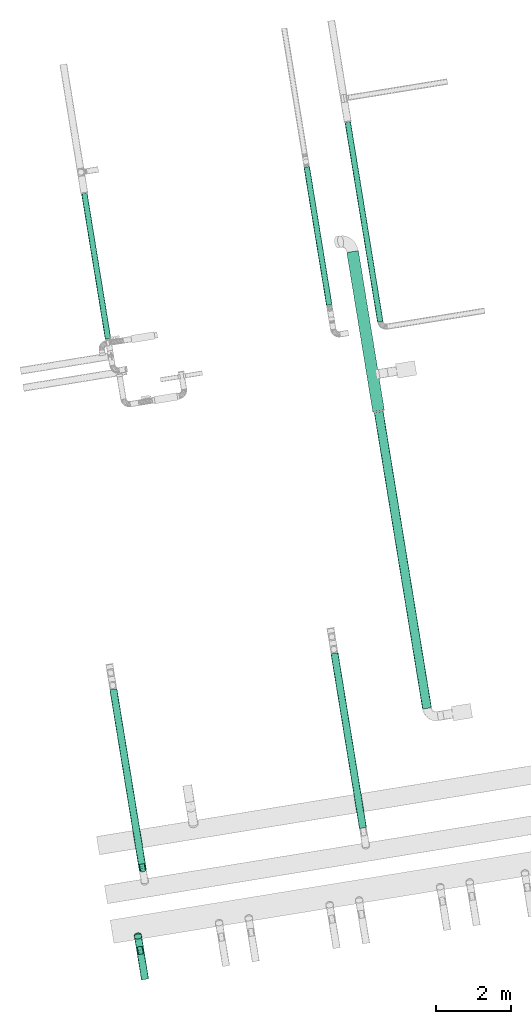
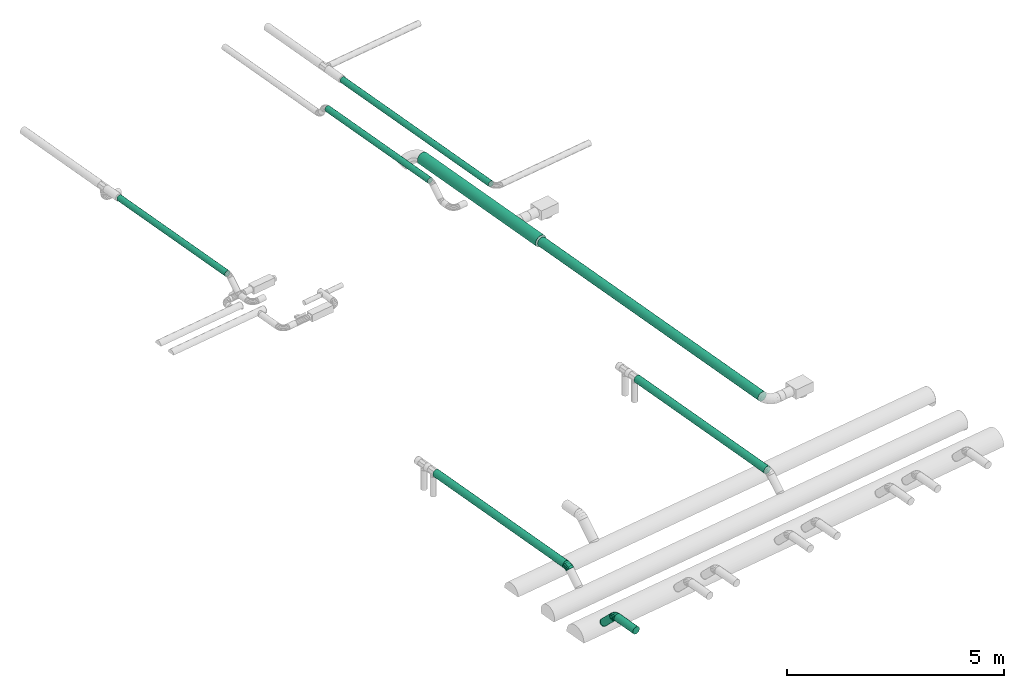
# One storey, part 1 of 19: 9 flow segments, 3 flow fittings.
"""IFC2X3 building model written with IfcOpenShell, lengths in millimetres."""

from ifc_helpers import new_model, entity, si_unit, converted_unit, derived_unit, direction, frame, frame_2d, origin, origin_with_axes, origin_2d_with_axis, place, context, subcontext, project, spatial, circle, extrude, faceted_brep, source, transform, mapped, material, type_object, element, save


model = new_model("IFC2X3")

# Units and contexts
model_context = context("Model", 3, precision=0.01, world=origin(), true_north=direction((6.12323399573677e-17, 1.0)))
plan_context = context("Plan", 3, precision=1e-05, world=origin_with_axes())
body_context = subcontext(model_context, "Body", "Model", "MODEL_VIEW")
ifc_project = project(units=[converted_unit("PLANEANGLEUNIT", "DEGREE", entity("IfcPositiveLengthMeasure", 0.0174532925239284), si_unit("PLANEANGLEUNIT", "RADIAN"), dimensions=[0, 0, 0, 0, 0, 0, 0]), si_unit("AREAUNIT", "SQUARE_METRE"), si_unit("LENGTHUNIT", "METRE", prefix="MILLI"), si_unit("MASSUNIT", "GRAM", prefix="KILO"), si_unit("POWERUNIT", "WATT"), si_unit("PRESSUREUNIT", "PASCAL", prefix="KILO"), si_unit("FORCEUNIT", "NEWTON", prefix="KILO"), si_unit("ELECTRICVOLTAGEUNIT", "VOLT"), si_unit("ELECTRICCURRENTUNIT", "AMPERE"), si_unit("THERMODYNAMICTEMPERATUREUNIT", "DEGREE_CELSIUS"), si_unit("TIMEUNIT", "SECOND"), si_unit("VOLUMEUNIT", "CUBIC_METRE"), derived_unit("LINEARVELOCITYUNIT", [(si_unit("LENGTHUNIT", "METRE"), 1), (si_unit("TIMEUNIT", "SECOND"), -1)]), derived_unit("VOLUMETRICFLOWRATEUNIT", [(si_unit("VOLUMEUNIT", "CUBIC_METRE"), 1), (si_unit("TIMEUNIT", "SECOND"), -1)]), derived_unit("THERMALTRANSMITTANCEUNIT", [(si_unit("POWERUNIT", "WATT"), 1), (si_unit("THERMODYNAMICTEMPERATUREUNIT", "KELVIN"), -1), (si_unit("AREAUNIT", "SQUARE_METRE"), -1)]), derived_unit("SOUNDPRESSUREUNIT", [(si_unit("PRESSUREUNIT", "PASCAL"), 1)])], contexts=[model_context, plan_context])

# Site, building, storey
site_placement = place(None, frame((5.09380697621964e-08, 5.80416781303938e-08, 0.0), z_axis=(0.0, 0.0, 1.0), x_axis=(-0.160806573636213, 0.986985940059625, 0.0)))
site = spatial("IfcSite", under=ifc_project, at=site_placement, Name="Default", CompositionType="ELEMENT")
building_placement = place(site_placement, frame((0.0, 0.0, 0.0), z_axis=(0.0, 0.0, 1.0), x_axis=(1.0, -2.77555756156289e-17, 0.0)))
building = spatial("IfcBuilding", under=site, at=building_placement, Name="Bygning (endres i Project Information)", CompositionType="ELEMENT")
storey_placement = place(building_placement, frame((0.0, 0.0, 51360.0000000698), z_axis=(0.0, 0.0, 1.0), x_axis=(1.0, -2.77555756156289e-17, 0.0)))
storey = spatial("IfcBuildingStorey", under=building, at=storey_placement, Name="H01-Nivå D+0,36", CompositionType="ELEMENT", Elevation=51360.0000000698)

# Flow fittings
ifc_material_1 = material(Name="3601.001 Avtrekk")
duct_fitting_type_1 = type_object("IfcDuctFittingType", Name="magicirc_elbow_full_radius_NOR:magicirc_elbow_full_radius_NOR", PredefinedType="NOTDEFINED", material=ifc_material_1)
shared_shape_1 = source(origin(), body_context, "Body", "Brep", [
    faceted_brep([(-24.3156158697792, -94.2355841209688, 0.0), (-25.4921544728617, -88.3207251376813, 34.2020143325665), (-82.8427124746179, -93.969262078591, 34.2020143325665), (-82.8427124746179, -100.0, 0.0), (-28.8798623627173, -71.2895674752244, 64.2787609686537), (-82.8427124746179, -76.604444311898, 64.2787609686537), (-34.0701319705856, -45.1963201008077, 86.6025403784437), (-82.8427124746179, -50.0, 86.6025403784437), (-40.4369401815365, -13.1882137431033, 98.4807753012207), (-82.842712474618, -17.3648177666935, 98.4807753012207), (-47.2123559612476, 20.8741015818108, 98.4807753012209), (-82.842712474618, 17.3648177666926, 98.4807753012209), (-53.5791641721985, 52.8822079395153, 86.6025403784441), (-82.8427124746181, 50.0, 86.6025403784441), (-58.7694337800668, 78.9754553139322, 64.2787609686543), (-82.8427124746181, 76.6044443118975, 64.2787609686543), (-62.1571416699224, 96.0066129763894, 34.2020143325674), (-82.8427124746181, 93.9692620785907, 34.2020143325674), (-63.3336802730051, 101.921471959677, 0.0), (-82.8427124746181, 100.0, 0.0), (-62.1571416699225, 96.0066129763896, -34.2020143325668), (-82.8427124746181, 93.9692620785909, -34.2020143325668), (-58.7694337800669, 78.9754553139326, -64.2787609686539), (-82.8427124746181, 76.6044443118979, -64.2787609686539), (-53.5791641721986, 52.8822079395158, -86.6025403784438), (-82.8427124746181, 50.0, -86.6025403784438), (-47.2123559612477, 20.8741015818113, -98.4807753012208), (-82.842712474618, 17.3648177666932, -98.4807753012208), (-40.4369401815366, -13.1882137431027, -98.4807753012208), (-82.842712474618, -17.3648177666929, -98.4807753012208), (-34.0701319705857, -45.1963201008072, -86.6025403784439), (-82.8427124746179, -50.0, -86.6025403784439), (-28.8798623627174, -71.289567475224, -64.2787609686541), (-82.8427124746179, -76.6044443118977, -64.2787609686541), (-25.4921544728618, -88.3207251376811, -34.2020143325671), (-82.8427124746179, -93.9692620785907, -34.2020143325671), (31.9623172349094, -77.1638597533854, 0.0), (29.6544537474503, -71.5921844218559, 34.2020143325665), (23.0092256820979, -55.54918470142, 64.2787609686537), (12.828145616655, -30.9698831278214, 86.6025403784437), (0.3392020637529, -0.818906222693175, 98.4807753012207), (-12.9512540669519, 31.267093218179, 98.4807753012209), (-25.440197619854, 61.4180701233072, 86.6025403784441), (-35.621277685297, 85.997371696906, 64.2787609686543), (-42.2665057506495, 102.040371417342, 34.2020143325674), (-44.5743692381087, 107.612046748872, 0.0), (-42.2665057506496, 102.040371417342, -34.2020143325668), (-35.6212776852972, 85.9973716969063, -64.2787609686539), (-25.4401976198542, 61.4180701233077, -86.6025403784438), (-12.9512540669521, 31.2670932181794, -98.4807753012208), (0.339202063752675, -0.818906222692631, -98.4807753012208), (12.8281456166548, -30.9698831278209, -86.6025403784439), (23.0092256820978, -55.5491847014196, -64.2787609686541), (29.6544537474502, -71.5921844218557, -34.2020143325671), (83.8283574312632, -49.4408836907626, 0.0), (80.4778589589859, -44.4265083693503, 34.2020143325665), (70.8304831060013, -29.9881900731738, 64.2787609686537), (56.0498457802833, -7.86740307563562, 86.6025403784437), (37.9187099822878, 19.2677592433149, 98.4807753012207), (18.6239582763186, 48.1443958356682, 98.4807753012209), (0.492822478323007, 75.2795581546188, 86.6025403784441), (-14.2878148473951, 97.4003451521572, 64.2787609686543), (-23.9351907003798, 111.838663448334, 34.2020143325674), (-27.2856891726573, 116.853038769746, 0.0), (-23.9351907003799, 111.838663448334, -34.2020143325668), (-14.2878148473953, 97.4003451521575, -64.2787609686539), (0.492822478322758, 75.2795581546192, -86.6025403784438), (18.6239582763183, 48.1443958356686, -98.4807753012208), (37.9187099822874, 19.2677592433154, -98.4807753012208), (56.049845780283, -7.86740307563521, -86.6025403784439), (70.8304831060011, -29.9881900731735, -64.2787609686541), (80.4778589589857, -44.4265083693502, -34.2020143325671), (129.289321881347, -12.1320343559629, 0.0), (125.02494620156, -7.86765867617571, 34.2020143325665), (112.746165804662, 4.41112172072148, 64.2787609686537), (93.9339828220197, 23.2233047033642, 86.6025403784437), (70.8574241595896, 46.2998633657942, 98.4807753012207), (46.299863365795, 70.8574241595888, 98.4807753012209), (23.2233047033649, 93.9339828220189, 86.6025403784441), (4.41112172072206, 112.746165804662, 64.2787609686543), (-7.86765867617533, 125.024946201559, 34.2020143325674), (-12.1320343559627, 129.289321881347, 0.0), (-7.86765867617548, 125.024946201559, -34.2020143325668), (4.41112172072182, 112.746165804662, -64.2787609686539), (23.2233047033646, 93.9339828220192, -86.6025403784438), (46.2998633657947, 70.8574241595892, -98.4807753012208), (70.8574241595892, 46.2998633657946, -98.4807753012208), (93.9339828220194, 23.2233047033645, -86.6025403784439), (112.746165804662, 4.41112172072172, -64.2787609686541), (125.02494620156, -7.86765867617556, -34.2020143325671)], [[[0, 1, 2, 3]], [[1, 4, 5, 2]], [[4, 6, 7, 5]], [[6, 8, 9, 7]], [[8, 10, 11, 9]], [[10, 12, 13, 11]], [[12, 14, 15, 13]], [[14, 16, 17, 15]], [[16, 18, 19, 17]], [[18, 20, 21, 19]], [[20, 22, 23, 21]], [[22, 24, 25, 23]], [[24, 26, 27, 25]], [[26, 28, 29, 27]], [[28, 30, 31, 29]], [[30, 32, 33, 31]], [[32, 34, 35, 33]], [[34, 0, 3, 35]], [[36, 37, 1, 0]], [[37, 38, 4, 1]], [[38, 39, 6, 4]], [[39, 40, 8, 6]], [[40, 41, 10, 8]], [[41, 42, 12, 10]], [[42, 43, 14, 12]], [[43, 44, 16, 14]], [[44, 45, 18, 16]], [[45, 46, 20, 18]], [[46, 47, 22, 20]], [[47, 48, 24, 22]], [[48, 49, 26, 24]], [[49, 50, 28, 26]], [[50, 51, 30, 28]], [[51, 52, 32, 30]], [[52, 53, 34, 32]], [[53, 36, 0, 34]], [[54, 55, 37, 36]], [[55, 56, 38, 37]], [[56, 57, 39, 38]], [[57, 58, 40, 39]], [[58, 59, 41, 40]], [[59, 60, 42, 41]], [[60, 61, 43, 42]], [[61, 62, 44, 43]], [[62, 63, 45, 44]], [[63, 64, 46, 45]], [[64, 65, 47, 46]], [[65, 66, 48, 47]], [[66, 67, 49, 48]], [[67, 68, 50, 49]], [[68, 69, 51, 50]], [[69, 70, 52, 51]], [[70, 71, 53, 52]], [[71, 54, 36, 53]], [[72, 73, 55, 54]], [[73, 74, 56, 55]], [[74, 75, 57, 56]], [[75, 76, 58, 57]], [[76, 77, 59, 58]], [[77, 78, 60, 59]], [[78, 79, 61, 60]], [[79, 80, 62, 61]], [[80, 81, 63, 62]], [[81, 82, 64, 63]], [[82, 83, 65, 64]], [[83, 84, 66, 65]], [[84, 85, 67, 66]], [[85, 86, 68, 67]], [[86, 87, 69, 68]], [[87, 88, 70, 69]], [[88, 89, 71, 70]], [[89, 72, 54, 71]], [[3, 2, 5, 7, 9, 11, 13, 15, 17, 19, 21, 23, 25, 27, 29, 31, 33, 35]], [[89, 88, 87, 86, 85, 84, 83, 82, 81, 80, 79, 78, 77, 76, 75, 74, 73, 72]]]),
])
for number, where, z_axis, x_axis, name in (
    (1, (995076.02146116, -385132.73177938, 3820.00000015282), (-2.77555756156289e-17, -1.0, 0.0), (-1.0, 2.77555756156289e-17, 0.0), "magicirc_elbow_full_radius_NOR:magicirc_elbow_full_radius_NOR"),
    (2, (992862.921338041, -384719.987431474, 3800.0), (2.77555756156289e-17, 1.0, 0.0), (1.0, -2.77555756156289e-17, 0.0), "magicirc_elbow_full_radius_NOR:magicirc_elbow_full_radius_NOR"),
):
    element("IfcFlowFitting", number, at=place(storey_placement, frame(where, z_axis=z_axis, x_axis=x_axis)), inside=storey, type_object=duct_fitting_type_1, material=ifc_material_1, Name=name, ObjectType="magicirc_elbow_full_radius_NOR:magicirc_elbow_full_radius_NOR", context=body_context, shape_type="MappedRepresentation", body=[
        mapped(shared_shape_1, transform((0.0, 0.0, 0.0), scale=1.0)),
    ])
ifc_material_2 = material(Name="3601.001 Tilluft")
duct_fitting_type_2 = type_object("IfcDuctFittingType", Name="magicirc_tapoutlet_001:magicirc_tapoutlet_001", PredefinedType="NOTDEFINED", material=ifc_material_2)
shared_shape_2 = source(origin(), body_context, "Body", "Brep", [
    faceted_brep([(-22.3909057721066, -25.8819045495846, -96.5925827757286), (-22.3909057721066, -50.0000000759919, -86.6025405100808), (-22.3909057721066, -70.7106782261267, -70.7106782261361), (-22.3909057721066, -86.6025405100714, -50.0000000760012), (-22.3909057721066, -96.5925827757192, -25.8819045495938), (-22.3909057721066, -100.000000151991, 0.0), (-22.3909057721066, -96.5925827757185, 25.8819045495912), (-22.3909057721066, -86.6025405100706, 50.0000000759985), (-22.3909057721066, -70.7106782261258, 70.7106782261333), (-22.3909057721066, -50.0000000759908, 86.6025405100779), (-22.3909057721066, -25.8819045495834, 96.5925827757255), (-22.3909057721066, 0.0, 100.000000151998), (-22.3909057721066, 25.8819045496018, 96.5925827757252), (-22.3909057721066, 50.0000000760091, 86.6025405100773), (-22.3909057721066, 70.710678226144, 70.7106782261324), (-22.3909057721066, 86.6025405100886, 50.0000000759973), (-22.3909057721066, 96.5925827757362, 25.8819045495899), (-22.3909057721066, 100.00000015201, 0.0), (-22.3909057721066, 96.5925827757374, -25.8819045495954), (-22.3909057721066, 86.6025405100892, -50.0000000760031), (-22.3909057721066, 70.7106782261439, -70.7106782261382), (-22.3909057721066, 50.0000000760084, -86.6025405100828), (-22.3909057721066, 25.8819045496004, -96.5925827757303), (-22.3909057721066, 0.0, -100.000000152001), (0.0, -25.8819045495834, 96.5925827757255), (20.0, -25.8819045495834, 96.5925827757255), (20.0, 0.0, 100.000000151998), (0.0, 0.0, 100.000000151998), (0.0, -50.0000000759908, 86.6025405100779), (20.0, -50.0000000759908, 86.6025405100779), (0.0, -70.7106782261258, 70.7106782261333), (20.0, -70.7106782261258, 70.7106782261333), (0.0, -96.5925827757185, 25.8819045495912), (20.0, -96.5925827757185, 25.8819045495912), (20.0, -86.6025405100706, 50.0000000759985), (0.0, -86.6025405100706, 50.0000000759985), (0.0, -100.000000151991, 0.0), (20.0, -100.000000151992, 0.0), (0.0, -96.5925827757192, -25.8819045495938), (20.0, -96.5925827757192, -25.8819045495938), (0.0, -86.6025405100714, -50.0000000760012), (20.0, -86.6025405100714, -50.0000000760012), (0.0, -70.7106782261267, -70.7106782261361), (20.0, -70.7106782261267, -70.7106782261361), (0.0, 0.0, -100.000000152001), (20.0, 0.0, -100.000000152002), (20.0, -25.8819045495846, -96.5925827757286), (0.0, -25.8819045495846, -96.5925827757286), (20.0, -50.0000000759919, -86.6025405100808), (0.0, -50.0000000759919, -86.6025405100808), (0.0, 25.8819045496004, -96.5925827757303), (20.0, 25.8819045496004, -96.5925827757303), (0.0, 50.0000000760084, -86.6025405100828), (20.0, 50.0000000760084, -86.6025405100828), (0.0, 70.7106782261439, -70.7106782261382), (20.0, 70.7106782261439, -70.7106782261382), (0.0, 96.5925827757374, -25.8819045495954), (20.0, 96.5925827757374, -25.8819045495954), (20.0, 86.6025405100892, -50.0000000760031), (0.0, 86.6025405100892, -50.0000000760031), (0.0, 100.00000015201, 0.0), (20.0, 100.000000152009, 0.0), (0.0, 96.5925827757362, 25.8819045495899), (20.0, 96.5925827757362, 25.8819045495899), (0.0, 86.6025405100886, 50.0000000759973), (20.0, 86.6025405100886, 50.0000000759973), (0.0, 70.710678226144, 70.7106782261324), (20.0, 70.710678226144, 70.7106782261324), (0.0, 25.8819045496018, 96.5925827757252), (20.0, 25.8819045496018, 96.5925827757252), (20.0, 50.0000000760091, 86.6025405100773), (0.0, 50.0000000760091, 86.6025405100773)], [[[0, 1, 2, 3, 4, 5, 6, 7, 8, 9, 10, 11, 12, 13, 14, 15, 16, 17, 18, 19, 20, 21, 22, 23]], [[24, 25, 26, 27, 11, 10]], [[28, 29, 25, 24, 10, 9]], [[8, 30, 31, 29, 28, 9]], [[32, 33, 34, 35, 7, 6]], [[36, 37, 33, 32, 6, 5]], [[7, 35, 34, 31, 30, 8]], [[38, 39, 37, 36, 5, 4]], [[40, 41, 39, 38, 4, 3]], [[2, 42, 43, 41, 40, 3]], [[0, 23, 44, 45, 46, 47]], [[1, 0, 47, 46, 48, 49]], [[1, 49, 48, 43, 42, 2]], [[50, 51, 45, 44, 23, 22]], [[52, 53, 51, 50, 22, 21]], [[20, 54, 55, 53, 52, 21]], [[56, 57, 58, 59, 19, 18]], [[60, 61, 57, 56, 18, 17]], [[19, 59, 58, 55, 54, 20]], [[62, 63, 61, 60, 17, 16]], [[64, 65, 63, 62, 16, 15]], [[14, 66, 67, 65, 64, 15]], [[68, 69, 70, 71, 13, 12]], [[27, 26, 69, 68, 12, 11]], [[13, 71, 70, 67, 66, 14]], [[45, 51, 53, 55, 58, 57, 61, 63, 65, 67, 70, 69, 26, 25, 29, 31, 34, 33, 37, 39, 41, 43, 48, 46]]]),
    faceted_brep([(20.0, 0.0, -100.000000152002), (20.0, 25.8819045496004, -96.5925827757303), (20.0, 50.0000000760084, -86.6025405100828), (20.0, 70.710678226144, -70.7106782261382), (20.0, 86.6025405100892, -50.0000000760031), (20.0, 96.5925827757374, -25.8819045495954), (20.0, 100.000000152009, 0.0), (20.0, 96.5925827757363, 25.8819045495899), (20.0, 86.6025405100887, 50.0000000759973), (20.0, 70.710678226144, 70.7106782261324), (20.0, 50.0000000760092, 86.6025405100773), (20.0, 25.8819045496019, 96.5925827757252), (20.0, 0.0, 100.000000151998), (20.0, -25.8819045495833, 96.5925827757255), (20.0, -50.0000000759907, 86.6025405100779), (20.0, -70.7106782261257, 70.7106782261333), (20.0, -86.6025405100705, 50.0000000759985), (20.0, -96.5925827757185, 25.8819045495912), (20.0, -100.000000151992, 0.0), (20.0, -96.5925827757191, -25.8819045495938), (20.0, -86.6025405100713, -50.0000000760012), (20.0, -70.7106782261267, -70.7106782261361), (20.0, -50.0000000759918, -86.6025405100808), (20.0, -25.8819045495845, -96.5925827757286), (0.0, 0.0, 100.000000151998), (-22.3909057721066, 0.0, 100.000000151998), (-22.3909057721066, -25.8819045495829, 96.5925827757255), (0.0, -25.8819045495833, 96.5925827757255), (-22.3909057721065, -50.0000000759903, 86.6025405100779), (0.0, -50.0000000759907, 86.6025405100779), (0.0, -70.7106782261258, 70.7106782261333), (-22.3909057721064, -70.7106782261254, 70.7106782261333), (0.0, -86.6025405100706, 50.0000000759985), (-22.3909057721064, -86.6025405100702, 50.0000000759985), (-22.3909057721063, -96.5925827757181, 25.8819045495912), (0.0, -96.5925827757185, 25.8819045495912), (-22.3909057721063, -100.000000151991, 0.0), (0.0, -100.000000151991, 0.0), (-22.3909057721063, -96.5925827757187, -25.8819045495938), (0.0, -96.5925827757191, -25.8819045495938), (-22.3909057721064, -86.602540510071, -50.0000000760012), (0.0, -86.6025405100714, -50.0000000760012), (0.0, -70.7106782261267, -70.7106782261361), (-22.3909057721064, -70.7106782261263, -70.7106782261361), (0.0, -25.8819045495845, -96.5925827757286), (-22.3909057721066, -25.8819045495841, -96.5925827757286), (-22.3909057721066, 0.0, -100.000000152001), (0.0, 0.0, -100.000000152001), (0.0, -50.0000000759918, -86.6025405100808), (-22.3909057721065, -50.0000000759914, -86.6025405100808), (-22.3909057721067, 25.8819045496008, -96.5925827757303), (0.0, 25.8819045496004, -96.5925827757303), (-22.3909057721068, 50.0000000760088, -86.6025405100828), (0.0, 50.0000000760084, -86.6025405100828), (0.0, 70.7106782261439, -70.7106782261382), (-22.3909057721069, 70.7106782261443, -70.7106782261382), (0.0, 86.6025405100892, -50.0000000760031), (-22.3909057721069, 86.6025405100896, -50.0000000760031), (-22.390905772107, 96.5925827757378, -25.8819045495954), (0.0, 96.5925827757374, -25.8819045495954), (-22.390905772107, 100.00000015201, 0.0), (0.0, 100.00000015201, 0.0), (-22.390905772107, 96.5925827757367, 25.8819045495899), (0.0, 96.5925827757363, 25.8819045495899), (-22.3909057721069, 86.602540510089, 50.0000000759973), (0.0, 86.6025405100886, 50.0000000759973), (0.0, 70.710678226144, 70.7106782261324), (-22.3909057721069, 70.7106782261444, 70.7106782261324), (0.0, 50.0000000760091, 86.6025405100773), (-22.3909057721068, 50.0000000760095, 86.6025405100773), (-22.3909057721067, 25.8819045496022, 96.5925827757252), (0.0, 25.8819045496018, 96.5925827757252)], [[[0, 1, 2, 3, 4, 5, 6, 7, 8, 9, 10, 11, 12, 13, 14, 15, 16, 17, 18, 19, 20, 21, 22, 23]], [[13, 12, 24, 25, 26, 27]], [[14, 13, 27, 26, 28, 29]], [[30, 15, 14, 29, 28, 31]], [[17, 16, 32, 33, 34, 35]], [[18, 17, 35, 34, 36, 37]], [[32, 16, 15, 30, 31, 33]], [[19, 18, 37, 36, 38, 39]], [[20, 19, 39, 38, 40, 41]], [[42, 21, 20, 41, 40, 43]], [[44, 45, 46, 47, 0, 23]], [[48, 49, 45, 44, 23, 22]], [[48, 22, 21, 42, 43, 49]], [[1, 0, 47, 46, 50, 51]], [[2, 1, 51, 50, 52, 53]], [[54, 3, 2, 53, 52, 55]], [[5, 4, 56, 57, 58, 59]], [[6, 5, 59, 58, 60, 61]], [[56, 4, 3, 54, 55, 57]], [[7, 6, 61, 60, 62, 63]], [[8, 7, 63, 62, 64, 65]], [[66, 9, 8, 65, 64, 67]], [[11, 10, 68, 69, 70, 71]], [[12, 11, 71, 70, 25, 24]], [[68, 10, 9, 66, 67, 69]], [[45, 49, 43, 40, 38, 36, 34, 33, 31, 28, 26, 25, 70, 69, 67, 64, 62, 60, 58, 57, 55, 52, 50, 46]]]),
    faceted_brep([(-22.3909057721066, -25.8819045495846, -96.5925827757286), (-22.3909057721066, -50.0000000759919, -86.6025405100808), (-22.3909057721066, -70.7106782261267, -70.7106782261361), (-22.3909057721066, -86.6025405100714, -50.0000000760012), (-22.3909057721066, -96.5925827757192, -25.8819045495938), (-22.3909057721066, -100.000000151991, 0.0), (-22.3909057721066, -96.5925827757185, 25.8819045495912), (-22.3909057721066, -86.6025405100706, 50.0000000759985), (-22.3909057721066, -70.7106782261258, 70.7106782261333), (-22.3909057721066, -50.0000000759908, 86.6025405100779), (-22.3909057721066, -25.8819045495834, 96.5925827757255), (-22.3909057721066, 0.0, 100.000000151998), (-22.3909057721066, 25.8819045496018, 96.5925827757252), (-22.3909057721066, 50.0000000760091, 86.6025405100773), (-22.3909057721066, 70.710678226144, 70.7106782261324), (-22.3909057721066, 86.6025405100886, 50.0000000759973), (-22.3909057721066, 96.5925827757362, 25.8819045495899), (-22.3909057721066, 100.00000015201, 0.0), (-22.3909057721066, 96.5925827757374, -25.8819045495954), (-22.3909057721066, 86.6025405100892, -50.0000000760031), (-22.3909057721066, 70.7106782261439, -70.7106782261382), (-22.3909057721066, 50.0000000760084, -86.6025405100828), (-22.3909057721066, 25.8819045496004, -96.5925827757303), (-22.3909057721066, 0.0, -100.000000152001), (0.0, -25.8819045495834, 96.5925827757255), (20.0, -25.8819045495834, 96.5925827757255), (20.0, 0.0, 100.000000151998), (0.0, 0.0, 100.000000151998), (0.0, -50.0000000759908, 86.6025405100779), (20.0, -50.0000000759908, 86.6025405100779), (0.0, -70.7106782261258, 70.7106782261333), (20.0, -70.7106782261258, 70.7106782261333), (0.0, -96.5925827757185, 25.8819045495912), (20.0, -96.5925827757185, 25.8819045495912), (20.0, -86.6025405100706, 50.0000000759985), (0.0, -86.6025405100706, 50.0000000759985), (0.0, -100.000000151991, 0.0), (20.0, -100.000000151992, 0.0), (0.0, -96.5925827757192, -25.8819045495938), (20.0, -96.5925827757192, -25.8819045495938), (0.0, -86.6025405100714, -50.0000000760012), (20.0, -86.6025405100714, -50.0000000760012), (0.0, -70.7106782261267, -70.7106782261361), (20.0, -70.7106782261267, -70.7106782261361), (0.0, 0.0, -100.000000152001), (20.0, 0.0, -100.000000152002), (20.0, -25.8819045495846, -96.5925827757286), (0.0, -25.8819045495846, -96.5925827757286), (20.0, -50.0000000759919, -86.6025405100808), (0.0, -50.0000000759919, -86.6025405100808), (0.0, 25.8819045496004, -96.5925827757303), (20.0, 25.8819045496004, -96.5925827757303), (0.0, 50.0000000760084, -86.6025405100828), (20.0, 50.0000000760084, -86.6025405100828), (0.0, 70.7106782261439, -70.7106782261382), (20.0, 70.7106782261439, -70.7106782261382), (0.0, 96.5925827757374, -25.8819045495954), (20.0, 96.5925827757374, -25.8819045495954), (20.0, 86.6025405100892, -50.0000000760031), (0.0, 86.6025405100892, -50.0000000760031), (0.0, 100.00000015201, 0.0), (20.0, 100.000000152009, 0.0), (0.0, 96.5925827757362, 25.8819045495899), (20.0, 96.5925827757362, 25.8819045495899), (0.0, 86.6025405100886, 50.0000000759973), (20.0, 86.6025405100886, 50.0000000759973), (0.0, 70.710678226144, 70.7106782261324), (20.0, 70.710678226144, 70.7106782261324), (0.0, 25.8819045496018, 96.5925827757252), (20.0, 25.8819045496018, 96.5925827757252), (20.0, 50.0000000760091, 86.6025405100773), (0.0, 50.0000000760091, 86.6025405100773)], [[[0, 1, 2, 3, 4, 5, 6, 7, 8, 9, 10, 11, 12, 13, 14, 15, 16, 17, 18, 19, 20, 21, 22, 23]], [[24, 25, 26, 27, 11, 10]], [[28, 29, 25, 24, 10, 9]], [[8, 30, 31, 29, 28, 9]], [[32, 33, 34, 35, 7, 6]], [[36, 37, 33, 32, 6, 5]], [[7, 35, 34, 31, 30, 8]], [[38, 39, 37, 36, 5, 4]], [[40, 41, 39, 38, 4, 3]], [[2, 42, 43, 41, 40, 3]], [[0, 23, 44, 45, 46, 47]], [[1, 0, 47, 46, 48, 49]], [[1, 49, 48, 43, 42, 2]], [[50, 51, 45, 44, 23, 22]], [[52, 53, 51, 50, 22, 21]], [[20, 54, 55, 53, 52, 21]], [[56, 57, 58, 59, 19, 18]], [[60, 61, 57, 56, 18, 17]], [[19, 59, 58, 55, 54, 20]], [[62, 63, 61, 60, 17, 16]], [[64, 65, 63, 62, 16, 15]], [[14, 66, 67, 65, 64, 15]], [[68, 69, 70, 71, 13, 12]], [[27, 26, 69, 68, 12, 11]], [[13, 71, 70, 67, 66, 14]], [[45, 51, 53, 55, 58, 57, 61, 63, 65, 67, 70, 69, 26, 25, 29, 31, 34, 33, 37, 39, 41, 43, 48, 46]]]),
])
flow_fitting_placement = place(storey_placement, frame((993275.16379933, -384719.987431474, 3387.75753871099), z_axis=(0.707106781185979, -1.26830987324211e-06, 0.707106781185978), x_axis=(-0.707106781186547, 1.38777878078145e-17, 0.707106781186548)))
element("IfcFlowFitting", 3, at=flow_fitting_placement, inside=storey, type_object=duct_fitting_type_2, material=ifc_material_2, Name="magicirc_tapoutlet_001:magicirc_tapoutlet_001", ObjectType="magicirc_tapoutlet_001:magicirc_tapoutlet_001", context=body_context, shape_type="MappedRepresentation", body=[
    mapped(shared_shape_2, transform((0.0, 0.0, 0.0), scale=1.0)),
])

# Flow segments
duct_segment_type = type_object("IfcDuctSegmentType", Name="Round Duct:Sirkulær kanal", PredefinedType="NOTDEFINED", material=ifc_material_2)
flow_segment_1_placement = place(storey_placement, frame((0.0, 0.0, 0.0), z_axis=(0.0, 0.0, 1.0), x_axis=(1.0, -2.77555756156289e-17, 0.0)))
element("IfcFlowSegment", 4, at=flow_segment_1_placement, inside=storey, type_object=duct_segment_type, Name="Round Duct:Sirkulær kanal", ObjectType="Round Duct:Sirkulær kanal", context=body_context, shape_type="SweptSolid", body=[
    extrude(circle(Radius=100.000000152, at=frame_2d((0.0, -8.66293703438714e-12), x_axis=(1.0, 0.0))), frame((992095.9462867, -384719.987431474, 3800.0), z_axis=(1.0, 0.0, 0.0), x_axis=(0.0, 1.0, 0.0)), (0.0, 0.0, 1.0), 684.132338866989),
])
flow_segment_2_placement = place(storey_placement, frame((0.0, 0.0, 0.0), z_axis=(0.0, 0.0, 1.0), x_axis=(1.0, -2.77555756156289e-17, 0.0)))
element("IfcFlowSegment", 5, at=flow_segment_2_placement, inside=storey, type_object=duct_segment_type, Name="Round Duct:Sirkulær kanal", ObjectType="Round Duct:Sirkulær kanal", context=body_context, shape_type="SweptSolid", body=[
    extrude(circle(Radius=100.000000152, at=frame_2d((0.0, -8.66293703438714e-12), x_axis=(1.0, 0.0))), frame((995158.864173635, -385132.73177938, 3820.00000015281), z_axis=(1.0, 0.0, 0.0), x_axis=(0.0, -1.0, 0.0)), (0.0, 0.0, 1.0), 4741.53496001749),
])
flow_segment_3_placement = place(storey_placement, frame((0.0, 0.0, 0.0), z_axis=(0.0, 0.0, 1.0), x_axis=(1.0, -2.77555756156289e-17, 0.0)))
element("IfcFlowSegment", 6, at=flow_segment_3_placement, inside=storey, type_object=duct_segment_type, Name="Round Duct:Sirkulær kanal", ObjectType="Round Duct:Sirkulær kanal", context=body_context, shape_type="SweptSolid", body=[
    extrude(circle(Radius=100.000000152, at=frame_2d((0.0, -8.66293703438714e-12), x_axis=(1.0, 0.0))), frame((995158.864173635, -391132.73177938, 3820.00000015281), z_axis=(1.0, 0.0, 0.0), x_axis=(0.0, -1.0, 0.0)), (0.0, 0.0, 1.0), 4741.53496001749),
])
flow_segment_4_placement = place(storey_placement, frame((0.0, 0.0, 0.0), z_axis=(0.0, 0.0, 1.0), x_axis=(1.0, -2.77555756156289e-17, 0.0)))
element("IfcFlowSegment", 7, at=flow_segment_4_placement, inside=storey, type_object=duct_segment_type, Name="Round Duct:Sirkulær kanal", ObjectType="Round Duct:Sirkulær kanal", context=body_context, shape_type="SweptSolid", body=[
    extrude(circle(Radius=80.0000001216, at=origin_2d_with_axis()), frame((1009190.26421634, -386501.39713563, 3799.99999996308), z_axis=(1.0, 0.0, 0.0), x_axis=(0.0, 1.0, 0.0)), (0.0, 0.0, 1.0), 3941.0154999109),
])
flow_segment_5_placement = place(storey_placement, frame((0.0, 0.0, 0.0), z_axis=(0.0, 0.0, 1.0), x_axis=(1.0, -2.77555756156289e-17, 0.0)))
element("IfcFlowSegment", 8, at=flow_segment_5_placement, inside=storey, type_object=duct_segment_type, Name="Round Duct:Sirkulær kanal", ObjectType="Round Duct:Sirkulær kanal", context=body_context, shape_type="SweptSolid", body=[
    extrude(circle(Radius=80.0000001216, at=frame_2d((0.0, 8.66293703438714e-12), x_axis=(1.0, 0.0))), frame((1009129.15967794, -392493.89713582, 3799.99999993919), z_axis=(1.0, 0.0, 0.0), x_axis=(0.0, 1.0, 0.0)), (0.0, 0.0, 1.0), 3747.04254269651),
])
flow_segment_6_placement = place(storey_placement, frame((0.0, 0.0, 0.0), z_axis=(0.0, 0.0, 1.0), x_axis=(1.0, -2.77555756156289e-17, 0.0)))
element("IfcFlowSegment", 9, at=flow_segment_6_placement, inside=storey, type_object=duct_segment_type, Name="Round Duct:Sirkulær kanal", ObjectType="Round Duct:Sirkulær kanal", context=body_context, shape_type="SweptSolid", body=[
    extrude(circle(Radius=80.0000001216, at=frame_2d((0.0, 8.66293703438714e-12), x_axis=(1.0, 0.0))), frame((1008468.4900465, -393771.087508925, 3499.99999994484), z_axis=(1.0, 0.0, 0.0), x_axis=(0.0, 1.0, 0.0)), (0.0, 0.0, 1.0), 5413.55515846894),
])
flow_segment_7_placement = place(storey_placement, frame((0.0, 0.0, 0.0), z_axis=(0.0, 0.0, 1.0), x_axis=(1.0, -2.77555756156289e-17, 0.0)))
element("IfcFlowSegment", 10, at=flow_segment_7_placement, inside=storey, type_object=duct_segment_type, Name="Round Duct:Sirkulær kanal", ObjectType="Round Duct:Sirkulær kanal", context=body_context, shape_type="SweptSolid", body=[
    extrude(circle(Radius=100.000000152, at=origin_2d_with_axis()), frame((992921.499981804, -384719.987431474, 3741.42135623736), z_axis=(0.707106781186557, 0.0, -0.707106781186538), x_axis=(-8.96830512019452e-07, -1.0, -8.96830512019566e-07)), (0.0, 0.0, 1.0), 480.156167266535),
])
flow_segment_8_placement = place(storey_placement, frame((0.0, 0.0, 0.0), z_axis=(0.0, 0.0, 1.0), x_axis=(1.0, -2.77555756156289e-17, 0.0)))
element("IfcFlowSegment", 11, at=flow_segment_8_placement, inside=storey, type_object=duct_segment_type, Name="Round Duct:Sirkulær kanal", ObjectType="Round Duct:Sirkulær kanal", context=body_context, shape_type="SweptSolid", body=[
    extrude(circle(Radius=125.00000019, at=frame_2d((-6.93034962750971e-11, 0.0), x_axis=(1.0, 0.0))), frame((998045.043332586, -393341.168778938, 3350.0), z_axis=(1.0, 0.0, 0.0), x_axis=(0.0, 1.0, 0.0)), (0.0, 0.0, 1.0), 8042.55158216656),
])
flow_segment_9_placement = place(storey_placement, frame((0.0, 0.0, 0.0), z_axis=(0.0, 0.0, 1.0), x_axis=(1.0, -2.77555756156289e-17, 0.0)))
element("IfcFlowSegment", 12, at=flow_segment_9_placement, inside=storey, type_object=duct_segment_type, Name="Round Duct:Sirkulær kanal", ObjectType="Round Duct:Sirkulær kanal", context=body_context, shape_type="SweptSolid", body=[
    extrude(circle(Radius=157.5000002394, at=origin_2d_with_axis()), frame((1006120.0949148, -393341.168778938, 3350.0), z_axis=(1.0, 0.0, 0.0), x_axis=(0.0, 1.0, 0.0)), (0.0, 0.0, 1.0), 4319.99999999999),
])

save(model, "model.ifc")
